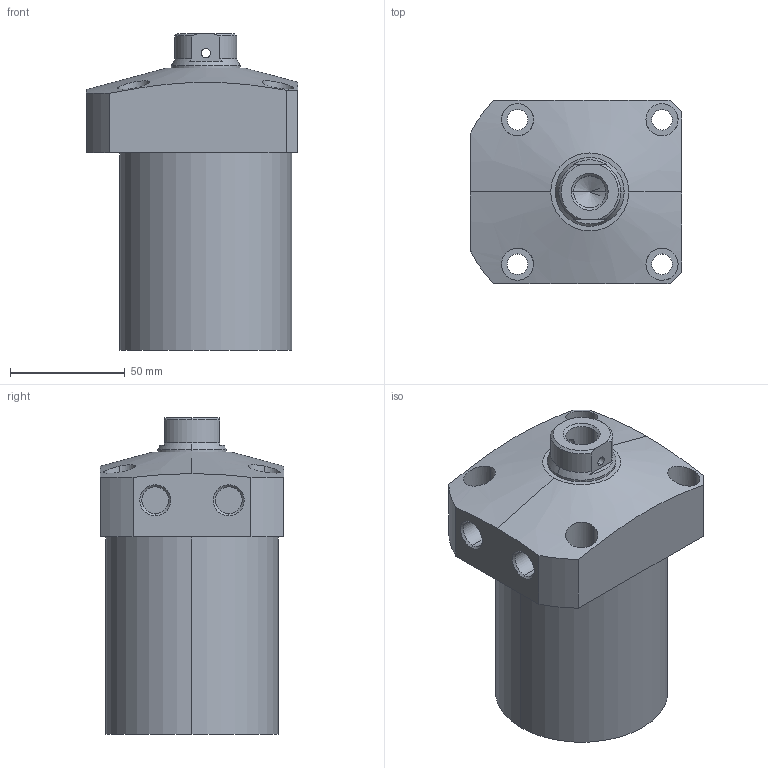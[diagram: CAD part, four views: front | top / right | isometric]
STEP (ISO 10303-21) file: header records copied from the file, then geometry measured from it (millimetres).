
FILE_DESCRIPTION (( 'STEP AP203' ), '1' );
FILE_NAME ('CLL-075CB-070.STEP', '2019-12-20T07:41:14', ( '' ), ( '' ), 'SwSTEP 2.0', 'SolidWorks 2015', '' );
FILE_SCHEMA (( 'CONFIG_CONTROL_DESIGN' ));
Length unit declared in the file: millimetre
Products named in the file (1): CLL-075CB-070
Bounding box: 92 x 80 x 138 mm (x, y, z)
Volume: 602507.1 mm3; surface area: 51617.9 mm2
Topology: 1 solids, 1 shells, 76 faces, 181 edges, 116 vertices
Faces by surface type: cylinder 39, plane 22, cone 15
Entity records: 2809 total; most frequent: CARTESIAN_POINT 932, DIRECTION 386, ORIENTED_EDGE 358, EDGE_CURVE 179, AXIS2_PLACEMENT_3D 158, VERTEX_POINT 116, EDGE_LOOP 99, CIRCLE 81
